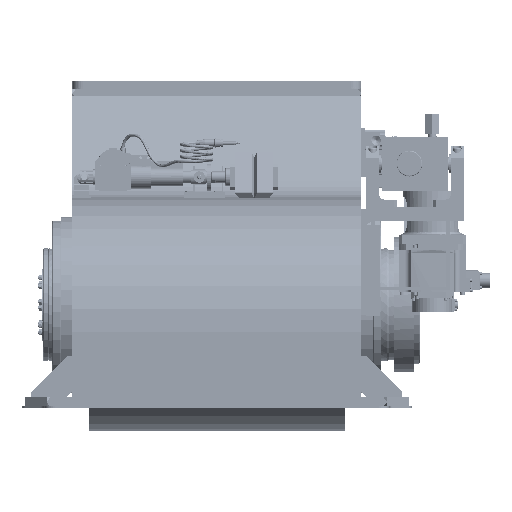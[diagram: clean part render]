
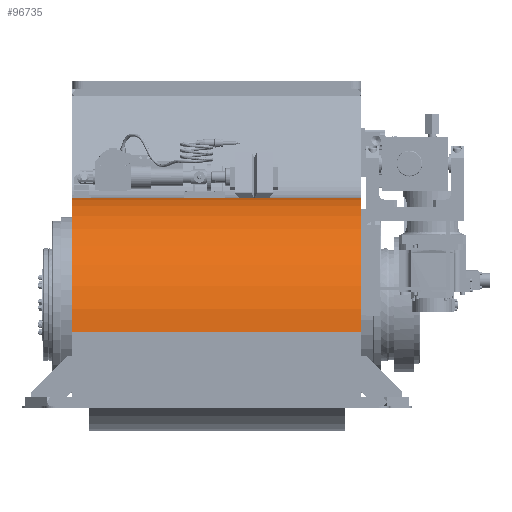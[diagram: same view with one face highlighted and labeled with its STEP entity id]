
A CAD part, front view. The second image highlights one B-rep face of the part: STEP entity #96735.
In plain terms, the highlighted cylindrical face has radius 263 mm (diameter 526 mm), a partial arc.
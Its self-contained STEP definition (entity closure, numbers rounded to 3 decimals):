
#6510=CIRCLE('',#103089,263.);
#6511=CIRCLE('',#103096,263.);
#9368=CYLINDRICAL_SURFACE('',#103097,263.);
#12866=FACE_OUTER_BOUND('',#18134,.T.);
#18134=EDGE_LOOP('',(#77006,#77007,#77008,#77009));
#25133=LINE('',#159724,#33505);
#25284=LINE('',#160084,#33656);
#33505=VECTOR('',#120619,10.);
#33656=VECTOR('',#120962,10.);
#42476=VERTEX_POINT('',#159721);
#42477=VERTEX_POINT('',#159723);
#42583=VERTEX_POINT('',#160063);
#42590=VERTEX_POINT('',#160082);
#55369=EDGE_CURVE('',#42476,#42477,#25133,.T.);
#55549=EDGE_CURVE('',#42583,#42590,#25284,.T.);
#55620=EDGE_CURVE('',#42477,#42590,#6510,.T.);
#55633=EDGE_CURVE('',#42583,#42476,#6511,.T.);
#77006=ORIENTED_EDGE('',*,*,#55369,.F.);
#77007=ORIENTED_EDGE('',*,*,#55633,.F.);
#77008=ORIENTED_EDGE('',*,*,#55549,.T.);
#77009=ORIENTED_EDGE('',*,*,#55620,.F.);
#96735=ADVANCED_FACE('',(#12866),#9368,.T.);
#103089=AXIS2_PLACEMENT_3D('',#160218,#121101,#121102);
#103096=AXIS2_PLACEMENT_3D('',#160241,#121127,#121128);
#103097=AXIS2_PLACEMENT_3D('',#160242,#121129,#121130);
#120619=DIRECTION('',(1.,0.,0.));
#120962=DIRECTION('',(1.,0.,0.));
#121101=DIRECTION('center_axis',(1.,0.,0.));
#121102=DIRECTION('ref_axis',(0.,0.,
1.));
#121127=DIRECTION('center_axis',(-1.,0.,0.));
#121128=DIRECTION('ref_axis',(0.,-1.,0.));
#121129=DIRECTION('center_axis',(-1.,0.,0.));
#121130=DIRECTION('ref_axis',(0.,-1.,0.));
#159721=CARTESIAN_POINT('',(80.081,-44.37,399.5));
#159723=CARTESIAN_POINT('',(644.081,-44.37,399.5));
#159724=CARTESIAN_POINT('',(362.081,-44.37,399.5));
#160063=CARTESIAN_POINT('',(80.081,-307.37,136.5));
#160082=CARTESIAN_POINT('',(644.081,-307.37,136.5));
#160084=CARTESIAN_POINT('',(362.081,-307.37,136.5));
#160218=CARTESIAN_POINT('Origin',(644.081,-44.37,136.5));
#160241=CARTESIAN_POINT('Origin',(80.081,-44.37,136.5));
#160242=CARTESIAN_POINT('Origin',(362.081,-44.37,136.5));
